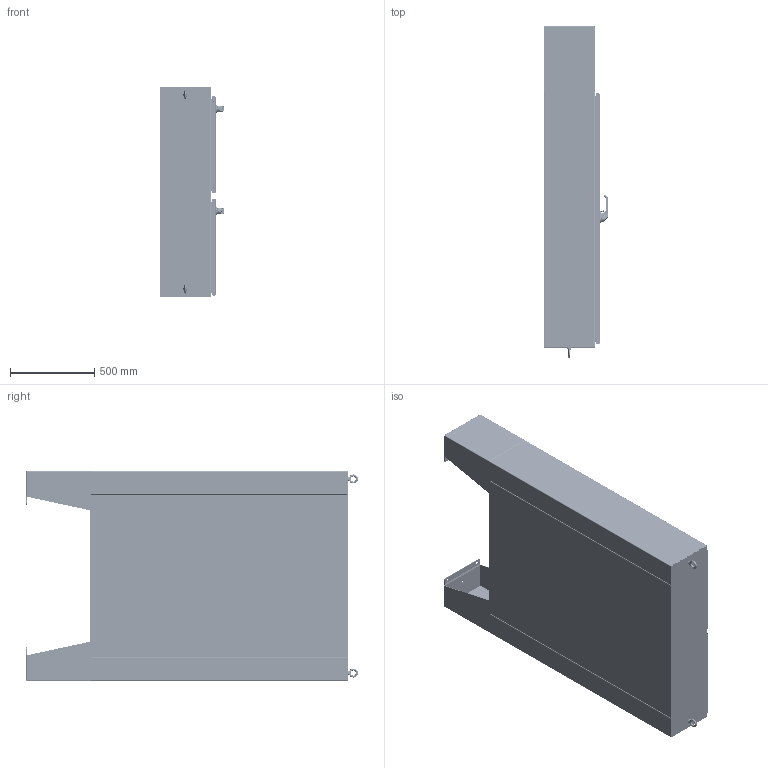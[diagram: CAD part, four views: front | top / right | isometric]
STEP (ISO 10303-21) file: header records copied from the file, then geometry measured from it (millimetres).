
FILE_DESCRIPTION((''),'2;1');
FILE_NAME('MODEL-130_ASM','2025-04-02T14:55:35',('joshi'),('SAGINAW CONTROL & ENGINEERING'),'CREO PARAMETRIC BY PTC INC, 2021284','CREO PARAMETRIC BY PTC INC, 2021284','');
FILE_SCHEMA(('AUTOMOTIVE_DESIGN { 1 0 10303 214 1 1 1 1 }'));
Length unit declared in the file: inch
Products named in the file (124): MODEL-130-BTM; MODEL-130-RS; MODEL-130-LS; MODEL-130-TP; MODEL-130-BCK; MODEL-130-MN-DR; 100837; 111267; 100882; 100953_SCREW_MTG; 100953_PADLOCK_CATCH; 100953_SCREW_LARGE; 100953_INSERT_SHAFT; 100953_INSERT_PCH; 100953_GASKET; 100953_O-RING; 100953_BASE; 100953_SPRING; 100953_HANDLE; 100953_CAM_SHAFT; 100953_HANDLE_ASM; 100953_CAM_ADAPTER; 100953_EARTH_NUT; 100953_FLANGE_NUT; 100953_CAM_NUT; 100953_CP_INSERT; 100953_SPRING_CAM; 100953_TORSION_SPRING; 100953_SCREW_INSERT; 100953_ASM; 102237; 100030; 102237_ASM; MODEL-130-ROD-UPR-MD; 128146; 128145; 128144; 102482; MODEL-130-ROD-UPR-MD_ASM; 128143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
Assembly tree (253 placements, depth 5):
  MODEL-130_ASM
    MODEL-130-BTM
    MODEL-130-RS
    MODEL-130-LS
    MODEL-130-TP
    MODEL-130-BCK
    MODEL-130-M-DOOR-ASSY_ASM
      MODEL-130-MN-DR
      100837  x7
      111267
      100882  x12
      100953_ASM
        100953_SCREW_MTG
        100953_PADLOCK_CATCH
        100953_SCREW_LARGE  x2
        100953_INSERT_SHAFT
        100953_INSERT_PCH
        100953_GASKET
        100953_O-RING
        100953_BASE
        100953_SPRING
        100953_HANDLE_ASM
          100953_HANDLE
          100953_CAM_SHAFT
        100953_CAM_ADAPTER
        100953_EARTH_NUT
        100953_FLANGE_NUT
        100953_CAM_NUT
        100953_CP_INSERT
        100953_SPRING_CAM
        100953_TORSION_SPRING
        100953_SCREW_INSERT
      102237_ASM
        102237
        100030  x2
      MODEL-130-ROD-UPR-MD_ASM
        MODEL-130-ROD-UPR-MD
        128146
        128145
        128144
        102482  x2
      128143  x2
      112504  x2
      MODEL-130-ROD-LWR-MD_ASM
        MODEL-130-ROD-LWR-MD
        128146
        128145
        128144
        102482  x2
      MODEL-130-PR-GSKT-M
      128257_ASM  x4
        128257
      126393  x4
      102483  x4
      101369_ASM  x4
        101369
        101369-STUD
      101221  x4
    MODEL-130-S-DOOR-ASSY_ASM
      MODEL-130-SEC-DR
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Bounding box: 382.87 x 1966.16 x 1244.6 mm (x, y, z)
Volume: 25908991 mm3; surface area: 18576937.8 mm2
Topology: 279 solids, 279 shells, 27221 faces, 68798 edges, 42244 vertices
Faces by surface type: plane 9247, cylinder 7319, bspline 5961, torus 2130, cone 1371, sphere 812, extrusion 381
Entity records: 837650 total; most frequent: CARTESIAN_POINT 374973, ORIENTED_EDGE 71400, DIRECTION 65495, PRESENTATION_STYLE_ASSIGNMENT 36665, STYLED_ITEM 36631, EDGE_CURVE 35700, CURVE_STYLE 35652, AXIS2_PLACEMENT_3D 24348
